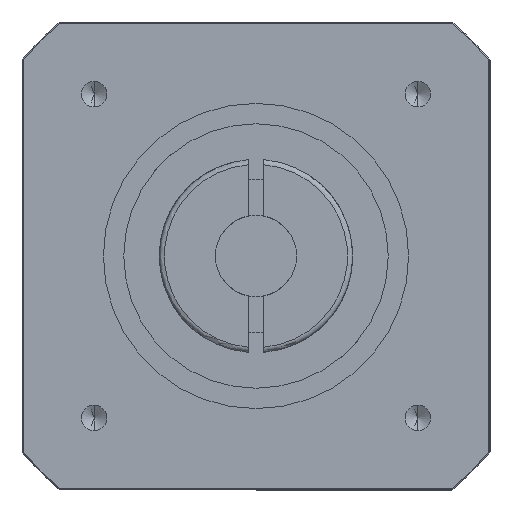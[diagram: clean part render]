
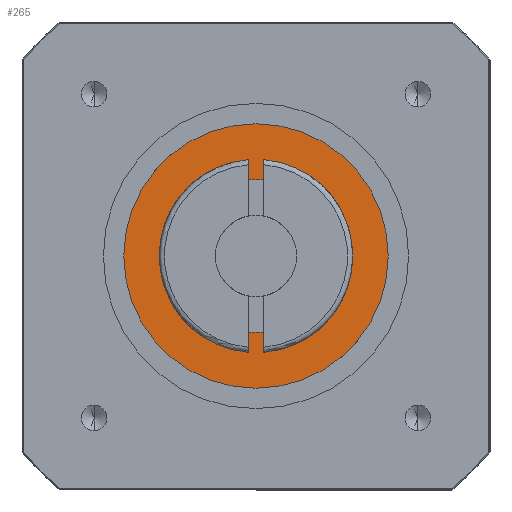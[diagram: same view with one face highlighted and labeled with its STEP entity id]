
A CAD part, front view. The second image highlights one B-rep face of the part: STEP entity #265.
In plain terms, the highlighted planar face has unit normal (0, -1, 0).
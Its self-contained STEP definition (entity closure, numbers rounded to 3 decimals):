
#265 = ADVANCED_FACE ( 'NONE', ( #2275, #2282 ), #2963, .T. ) ;
#281 = CARTESIAN_POINT ( 'NONE',  ( 0., -64., -13. ) ) ;
#381 = EDGE_CURVE ( 'NONE', #4869, #4870, #2337, .T. ) ;
#392 = EDGE_CURVE ( 'NONE', #4832, #4858, #2352, .T. ) ;
#804 = CARTESIAN_POINT ( 'NONE',  ( 0., -64., 13. ) ) ;
#815 = CARTESIAN_POINT ( 'NONE',  ( 0., -64., -7.5 ) ) ;
#816 = CARTESIAN_POINT ( 'NONE',  ( 0., -64., 7.5 ) ) ;
#1093 = CARTESIAN_POINT ( 'NONE',  ( 0., -64., 0. ) ) ;
#1094 = DIRECTION ( 'NONE',  ( 0., 1., 0. ) ) ;
#1095 = DIRECTION ( 'NONE',  ( 0., 0., 1. ) ) ;
#1112 = CARTESIAN_POINT ( 'NONE',  ( 0., -64., 0. ) ) ;
#1113 = DIRECTION ( 'NONE',  ( 0., -1., 0. ) ) ;
#1114 = DIRECTION ( 'NONE',  ( 0., 0., -1. ) ) ;
#1400 = CIRCLE ( 'NONE', #4627, 7.5 ) ;
#1412 = CIRCLE ( 'NONE', #4631, 13. ) ;
#2275 = FACE_OUTER_BOUND ( 'NONE', #5898, .T. ) ;
#2282 = FACE_BOUND ( 'NONE', #5849, .T. ) ;
#2337 = CIRCLE ( 'NONE', #4593, 7.5 ) ;
#2352 = CIRCLE ( 'NONE', #4597, 13. ) ;
#2957 = DIRECTION ( 'NONE',  ( 0., 0., -1. ) ) ;
#2958 = DIRECTION ( 'NONE',  ( 0., -1., 0. ) ) ;
#2963 = PLANE ( 'NONE',  #4551 ) ;
#2968 = CARTESIAN_POINT ( 'NONE',  ( 0., -64., 0. ) ) ;
#4551 = AXIS2_PLACEMENT_3D ( 'NONE', #2968, #2958, #2957 ) ;
#4593 = AXIS2_PLACEMENT_3D ( 'NONE', #6652, #6595, #6541 ) ;
#4597 = AXIS2_PLACEMENT_3D ( 'NONE', #6527, #6656, #6598 ) ;
#4627 = AXIS2_PLACEMENT_3D ( 'NONE', #1093, #1094, #1095 ) ;
#4631 = AXIS2_PLACEMENT_3D ( 'NONE', #1112, #1113, #1114 ) ;
#4832 = VERTEX_POINT ( 'NONE', #281 ) ;
#4858 = VERTEX_POINT ( 'NONE', #804 ) ;
#4869 = VERTEX_POINT ( 'NONE', #815 ) ;
#4870 = VERTEX_POINT ( 'NONE', #816 ) ;
#5293 = EDGE_CURVE ( 'NONE', #4870, #4869, #1400, .T. ) ;
#5301 = EDGE_CURVE ( 'NONE', #4858, #4832, #1412, .T. ) ;
#5849 = EDGE_LOOP ( 'NONE', ( #6064, #6065 ) ) ;
#5898 = EDGE_LOOP ( 'NONE', ( #6062, #6063 ) ) ;
#6062 = ORIENTED_EDGE ( 'NONE', *, *, #392, .T. ) ;
#6063 = ORIENTED_EDGE ( 'NONE', *, *, #5301, .T. ) ;
#6064 = ORIENTED_EDGE ( 'NONE', *, *, #5293, .T. ) ;
#6065 = ORIENTED_EDGE ( 'NONE', *, *, #381, .T. ) ;
#6527 = CARTESIAN_POINT ( 'NONE',  ( 0., -64., 0. ) ) ;
#6541 = DIRECTION ( 'NONE',  ( 0., 0., 1. ) ) ;
#6595 = DIRECTION ( 'NONE',  ( 0., 1., 0. ) ) ;
#6598 = DIRECTION ( 'NONE',  ( 0., 0., -1. ) ) ;
#6652 = CARTESIAN_POINT ( 'NONE',  ( 0., -64., 0. ) ) ;
#6656 = DIRECTION ( 'NONE',  ( 0., -1., 0. ) ) ;
